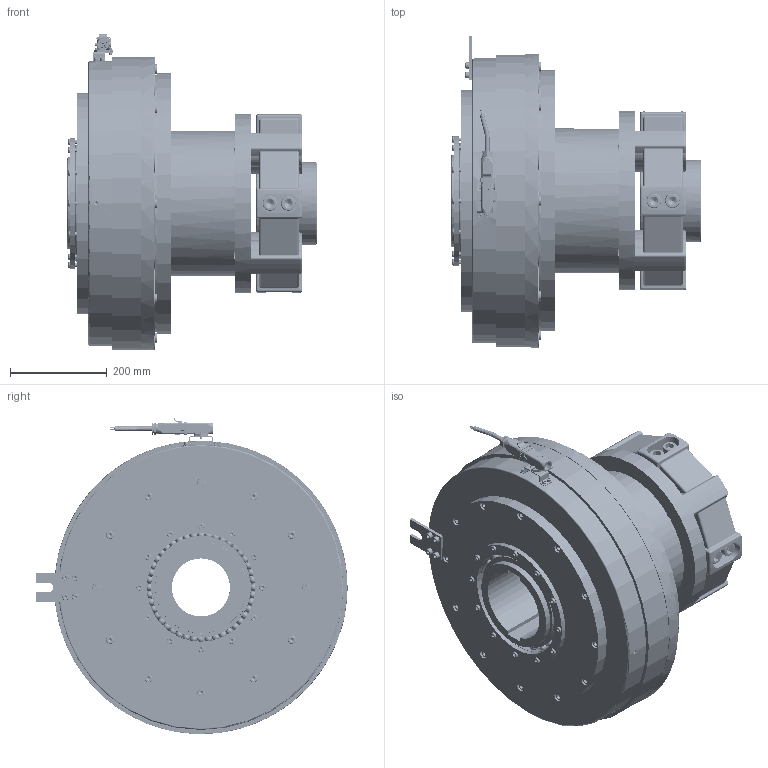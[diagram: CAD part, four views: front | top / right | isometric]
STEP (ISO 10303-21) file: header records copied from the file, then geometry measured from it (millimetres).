
FILE_DESCRIPTION(/* description */ (''),/* implementation_level */ '2;1');
FILE_NAME(/* name */ 'X:\INVENTOR\DISEGNI\08_Freni_Friz_Elettmag_Monodisco\08_26 EMSL_DF\EMSL_DF STEP\08_26_600_51 EMSL600_DF-GE_S@STEP.stp',/* time_stamp */ '2018-04-24T10:22:40+02:00',/* author */ ('stefano'),/* organization */ (''),/* preprocessor_version */ 'ST-DEVELOPER v17',/* originating_system */ 'Autodesk Inventor 2018',/* authorisation */ '');
FILE_SCHEMA (('AUTOMOTIVE_DESIGN { 1 0 10303 214 3 1 1 }'));
Products named in the file (1): 08_26_600_51 EMSL600_DF-GE - Spina_Substitute_1
Bounding box: 515 x 643 x 653.32 mm (x, y, z)
Volume: 49475173.2 mm3; surface area: 4391063.5 mm2
Topology: 3 solids, 3 shells, 3451 faces, 10390 edges, 6954 vertices
Faces by surface type: plane 1754, cylinder 961, torus 387, cone 206, sphere 122, bspline 21
Full cylindrical faces by diameter (mm): 0.35 x1, 0.491 x1, 0.753 x1, 0.95 x1, 0.986 x1, 1.05 x1, 2.5 x2, 3 x4, 3.2 x1, 3.25 x2, 3.59 x3, 4 x5, 4.675 x2, 4.8 x2, 5 x20, 5.25 x4, 5.5 x2, 6 x6, 6.2 x1, 7 x1, 7.9 x2, 8 x20, 8.2 x2, 8.376 x1, 8.5 x16, 9.5 x2, 10 x20, 12 x1, 13 x16, 13.5 x14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
Entity records: 138294 total; most frequent: CARTESIAN_POINT 41125, ORIENTED_EDGE 20194, DIRECTION 19518, EDGE_CURVE 10097, AXIS2_PLACEMENT_3D 7529, VERTEX_POINT 6954, LINE 4460, VECTOR 4460
